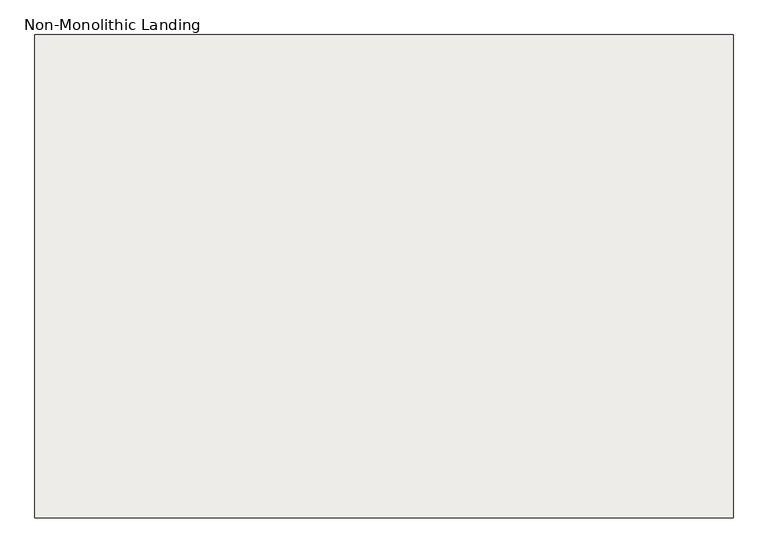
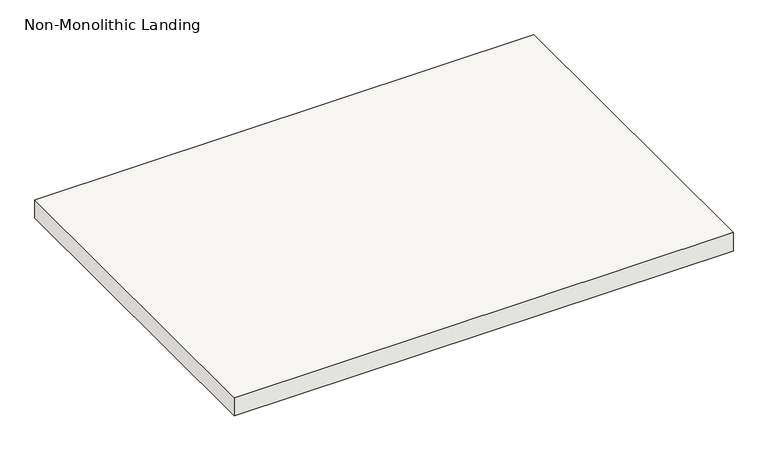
"""IFC4 building model written with IfcOpenShell, lengths in millimetres: slab geometry, Non-Monolithic Landing."""

from ifc_helpers import new_model, si_unit, frame, origin, place, context, project, spatial, polyline, outline, extrude, source, transform, mapped, element, save


def non_monolithic_landing_677d5420(model_context):
    return source(origin(), model_context, "Body", "SweptSolid", [
        extrude(outline(polyline([(136852.1523809, -1486.3855758), (138172.9523809, -1486.3855758), (138172.9523809, -2400.7855758), (136852.1523809, -2400.7855758), (136852.1523809, -1486.3855758)])), frame((0.0, 0.0, 2126.3428571), z_axis=(0.0, 0.0, 1.0), x_axis=(1.0, 0.0, 0.0)), (0.0, 0.0, 1.0), 50.8),
    ])


if __name__ == "__main__":
    model = new_model("IFC4")
    model_context = context("Model", 3, world=origin())
    ifc_project = project(units=[si_unit("LENGTHUNIT", "METRE", prefix="MILLI")], contexts=[model_context])
    site = spatial("IfcSite", under=ifc_project)
    building = spatial("IfcBuilding", under=site)
    placement = place(None, origin())
    non_monolithic_landing_shape = non_monolithic_landing_677d5420(model_context)
    element("IfcSlab", 1, ObjectType="Non-Monolithic Landing", at=placement, inside=building, context=model_context, shape_type="MappedRepresentation", body=[
        mapped(non_monolithic_landing_shape, transform((0.0, 0.0, 0.0), x_axis=(1.0, 0.0, 0.0), y_axis=(0.0, 1.0, 0.0), z_axis=(0.0, 0.0, 1.0))),
    ])
    save(model, "model.ifc")
